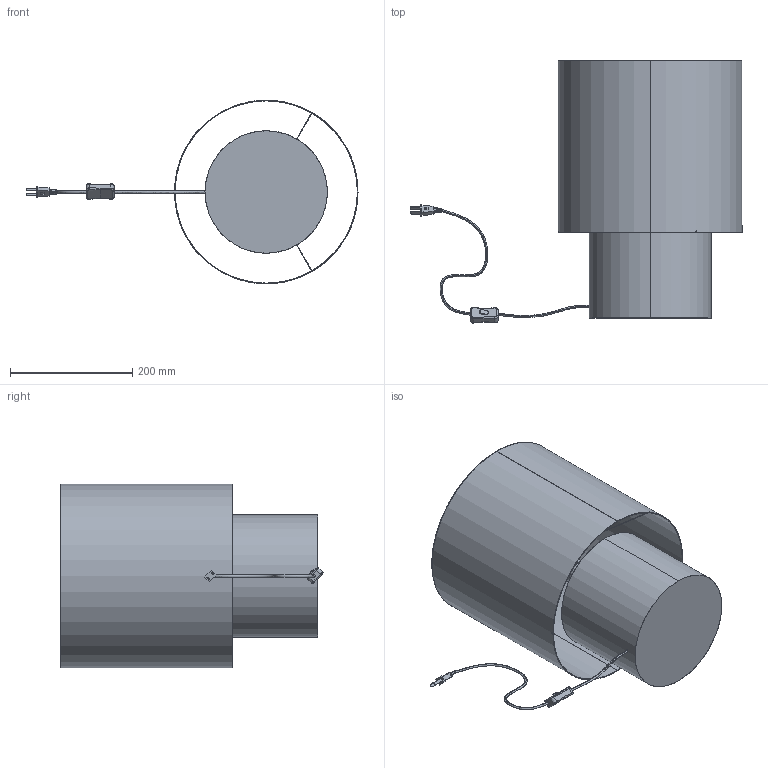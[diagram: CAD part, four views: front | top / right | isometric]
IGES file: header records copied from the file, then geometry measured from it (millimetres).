
Start section: SolidWorks IGES file using analytic representation for surfaces
Global section: file name: F:\燠隴矨\3D\2025-9\Japanese Wabi Sabi Table Lamp.IGS,15; native system: HSolidWorks 2022; preprocessor: SolidWorks 2022; author: MyPC; date: 250908.095823; units: millimetre
Bounding box: 542.53 x 428.36 x 300 mm (x, y, z)
Surface area: 758673.2 mm2 (no closed solid volume)
Topology: 0 solids, 0 shells, 256 faces, 2900 edges, 2897 vertices
Faces by surface type: bspline 149, revolution 107
